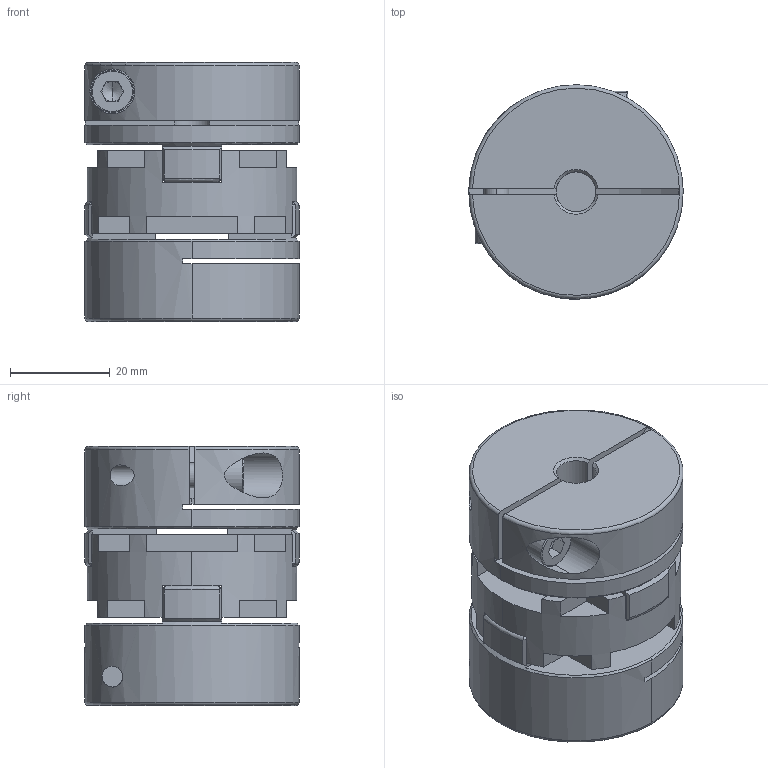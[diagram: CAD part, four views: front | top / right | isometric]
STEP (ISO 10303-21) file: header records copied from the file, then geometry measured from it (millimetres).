
FILE_DESCRIPTION (( 'STEP AP203' ), '1' );
FILE_NAME ('SOH-43C-8X19_203.STEP', '2013-01-25T02:37:02', ( '' ), ( '' ), 'SwSTEP 2.0', 'SolidWorks 2012', '' );
FILE_SCHEMA (( 'CONFIG_CONTROL_DESIGN' ));
Length unit declared in the file: millimetre
Products named in the file (1): SOH-43C-8X19_203
Bounding box: 43 x 43 x 52 mm (x, y, z)
Volume: 56811.4 mm3; surface area: 21199.8 mm2
Topology: 1 solids, 1 shells, 254 faces, 733 edges, 466 vertices
Faces by surface type: plane 155, cylinder 53, cone 24, torus 22
Entity records: 8792 total; most frequent: CARTESIAN_POINT 2002, ORIENTED_EDGE 1458, DIRECTION 1377, EDGE_CURVE 729, AXIS2_PLACEMENT_3D 473, VERTEX_POINT 466, VECTOR 431, LINE 431
